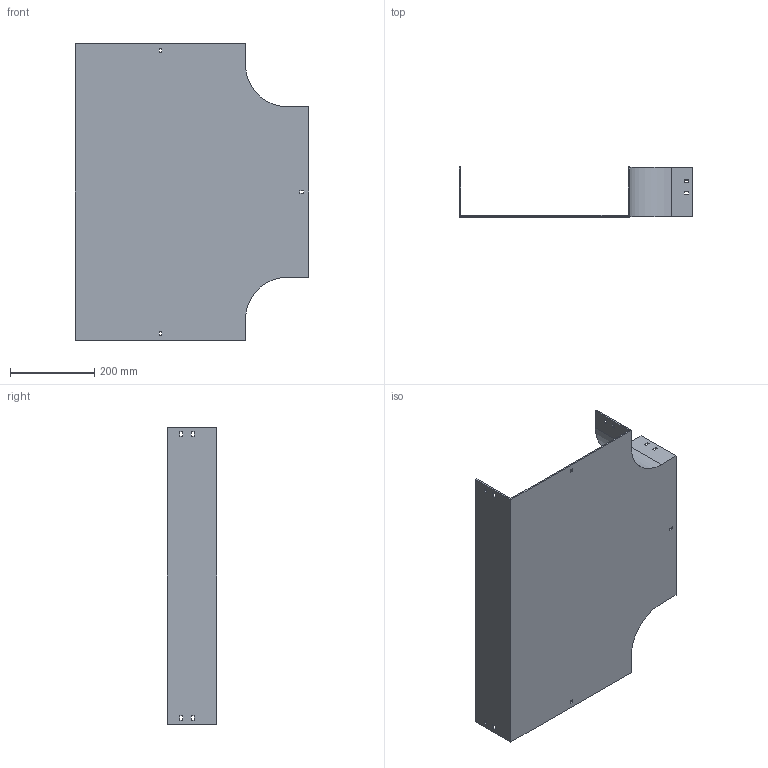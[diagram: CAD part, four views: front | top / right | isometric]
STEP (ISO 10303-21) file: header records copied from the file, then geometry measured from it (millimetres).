
FILE_DESCRIPTION (( 'STEP AP214' ), '1' );
FILE_NAME ('15B1J400.step', '2025-02-21T09:53:48', ( '' ), ( '' ), 'SwSTEP 2.0', 'SolidWorks 2023', '' );
FILE_SCHEMA (( 'AUTOMOTIVE_DESIGN' ));
Length unit declared in the file: millimetre
Products named in the file (1): 15B1J400
Bounding box: 554 x 117.5 x 704 mm (x, y, z)
Volume: 1707263 mm3; surface area: 988231.9 mm2
Topology: 1 solids, 1 shells, 82 faces, 240 edges, 160 vertices
Faces by surface type: plane 78, cylinder 4
Entity records: 2755 total; most frequent: CARTESIAN_POINT 483, ORIENTED_EDGE 480, DIRECTION 414, EDGE_CURVE 240, VECTOR 232, LINE 232, VERTEX_POINT 160, EDGE_LOOP 112
